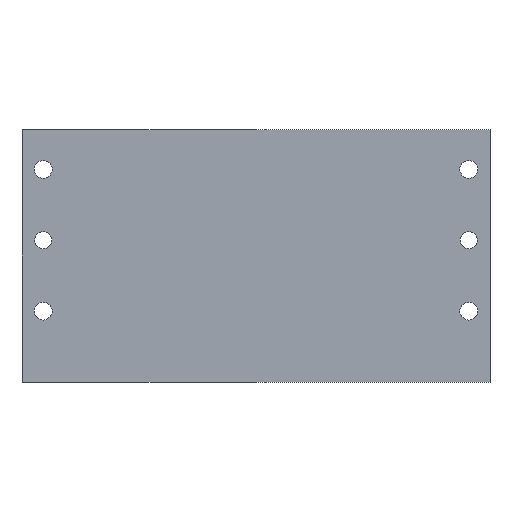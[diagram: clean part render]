
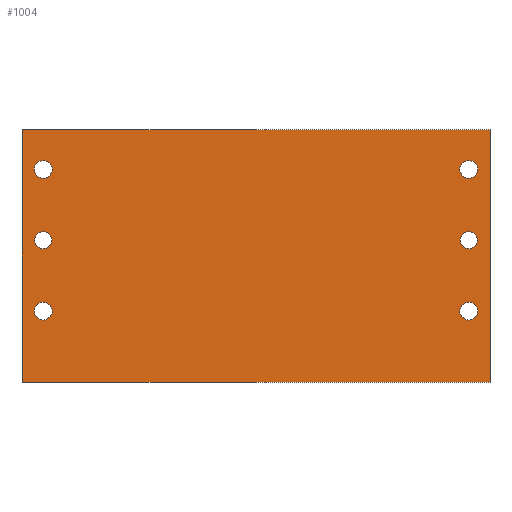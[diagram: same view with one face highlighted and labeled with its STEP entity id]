
A CAD part, front view. The second image highlights one B-rep face of the part: STEP entity #1004.
In plain terms, the highlighted planar face has unit normal (0, -1, 0).
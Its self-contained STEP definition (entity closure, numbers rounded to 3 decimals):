
#39=FACE_BOUND($,#193,.T.);
#40=FACE_BOUND($,#194,.T.);
#41=FACE_BOUND($,#195,.T.);
#42=FACE_BOUND($,#196,.T.);
#43=FACE_BOUND($,#197,.T.);
#44=FACE_BOUND($,#198,.T.);
#45=FACE_BOUND($,#199,.T.);
#78=PLANE($,#1090);
#193=EDGE_LOOP($,(#847));
#194=EDGE_LOOP($,(#848));
#195=EDGE_LOOP($,(#849));
#196=EDGE_LOOP($,(#850));
#197=EDGE_LOOP($,(#851));
#198=EDGE_LOOP($,(#852));
#199=EDGE_LOOP($,(#853,#854,#855,#856));
#274=LINE($,#1538,#364);
#293=LINE($,#1606,#383);
#294=LINE($,#1609,#384);
#296=LINE($,#1612,#386);
#364=VECTOR($,#1263,177.8);
#383=VECTOR($,#1336,330.);
#384=VECTOR($,#1339,330.);
#386=VECTOR($,#1343,177.8);
#413=CIRCLE($,#1064,6.25);
#415=CIRCLE($,#1067,6.25);
#417=CIRCLE($,#1070,6.25);
#419=CIRCLE($,#1073,6.25);
#421=CIRCLE($,#1076,6.);
#423=CIRCLE($,#1079,6.);
#492=VERTEX_POINT($,#1535);
#493=VERTEX_POINT($,#1537);
#496=VERTEX_POINT($,#1546);
#498=VERTEX_POINT($,#1551);
#500=VERTEX_POINT($,#1556);
#502=VERTEX_POINT($,#1561);
#504=VERTEX_POINT($,#1566);
#506=VERTEX_POINT($,#1571);
#515=VERTEX_POINT($,#1604);
#516=VERTEX_POINT($,#1608);
#606=EDGE_CURVE($,#493,#492,#274,.T.);
#610=EDGE_CURVE($,#496,#496,#413,.T.);
#612=EDGE_CURVE($,#498,#498,#415,.T.);
#614=EDGE_CURVE($,#500,#500,#417,.T.);
#616=EDGE_CURVE($,#502,#502,#419,.T.);
#618=EDGE_CURVE($,#504,#504,#421,.T.);
#620=EDGE_CURVE($,#506,#506,#423,.T.);
#637=EDGE_CURVE($,#492,#515,#293,.T.);
#638=EDGE_CURVE($,#516,#493,#294,.T.);
#640=EDGE_CURVE($,#515,#516,#296,.T.);
#847=ORIENTED_EDGE($,*,*,#610,.T.);
#848=ORIENTED_EDGE($,*,*,#612,.T.);
#849=ORIENTED_EDGE($,*,*,#614,.T.);
#850=ORIENTED_EDGE($,*,*,#616,.T.);
#851=ORIENTED_EDGE($,*,*,#618,.T.);
#852=ORIENTED_EDGE($,*,*,#620,.T.);
#853=ORIENTED_EDGE($,*,*,#638,.T.);
#854=ORIENTED_EDGE($,*,*,#606,.T.);
#855=ORIENTED_EDGE($,*,*,#637,.T.);
#856=ORIENTED_EDGE($,*,*,#640,.T.);
#1004=ADVANCED_FACE($,(#39,#40,#41,#42,#43,#44,#45),#78,.T.);
#1064=AXIS2_PLACEMENT_3D($,#1547,#1271,#1272);
#1067=AXIS2_PLACEMENT_3D($,#1552,#1277,#1278);
#1070=AXIS2_PLACEMENT_3D($,#1557,#1283,#1284);
#1073=AXIS2_PLACEMENT_3D($,#1562,#1289,#1290);
#1076=AXIS2_PLACEMENT_3D($,#1567,#1295,#1296);
#1079=AXIS2_PLACEMENT_3D($,#1572,#1301,#1302);
#1090=AXIS2_PLACEMENT_3D($,#1611,#1341,#1342);
#1263=DIRECTION($,(0.,0.,1.));
#1271=DIRECTION('center_axis',(0.,1.,0.));
#1272=DIRECTION('ref_axis',(1.,0.,0.));
#1277=DIRECTION('center_axis',(0.,1.,0.));
#1278=DIRECTION('ref_axis',(1.,0.,0.));
#1283=DIRECTION('center_axis',(0.,1.,0.));
#1284=DIRECTION('ref_axis',(1.,0.,0.));
#1289=DIRECTION('center_axis',(0.,1.,0.));
#1290=DIRECTION('ref_axis',(1.,0.,0.));
#1295=DIRECTION('center_axis',(0.,1.,0.));
#1296=DIRECTION('ref_axis',(1.,0.,0.));
#1301=DIRECTION('center_axis',(0.,1.,0.));
#1302=DIRECTION('ref_axis',(1.,0.,0.));
#1336=DIRECTION($,(-1.,0.,0.));
#1339=DIRECTION($,(1.,0.,0.));
#1341=DIRECTION('center_axis',(0.,-1.,0.));
#1342=DIRECTION('ref_axis',(0.,0.,-1.));
#1343=DIRECTION($,(0.,0.,-1.));
#1535=CARTESIAN_POINT('',(165.,-298.5,171.8));
#1537=CARTESIAN_POINT('',(165.,-298.5,-6.));
#1538=CARTESIAN_POINT($,(165.,-298.5,-6.));
#1546=CARTESIAN_POINT('',(143.75,-298.5,44.));
#1547=CARTESIAN_POINT('Origin',(150.,-298.5,44.));
#1551=CARTESIAN_POINT('',(-156.25,-298.5,144.));
#1552=CARTESIAN_POINT('Origin',(-150.,-298.5,144.));
#1556=CARTESIAN_POINT('',(143.75,-298.5,144.));
#1557=CARTESIAN_POINT('Origin',(150.,-298.5,144.));
#1561=CARTESIAN_POINT('',(-156.25,-298.5,44.));
#1562=CARTESIAN_POINT('Origin',(-150.,-298.5,44.));
#1566=CARTESIAN_POINT('',(144.,-298.5,94.));
#1567=CARTESIAN_POINT('Origin',(150.,-298.5,94.));
#1571=CARTESIAN_POINT('',(-156.,-298.5,94.));
#1572=CARTESIAN_POINT('Origin',(-150.,-298.5,94.));
#1604=CARTESIAN_POINT('',(-165.,-298.5,171.8));
#1606=CARTESIAN_POINT($,(165.,-298.5,171.8));
#1608=CARTESIAN_POINT('',(-165.,-298.5,-6.));
#1609=CARTESIAN_POINT($,(-165.,-298.5,-6.));
#1611=CARTESIAN_POINT('Origin',(0.,-298.5,82.9));
#1612=CARTESIAN_POINT($,(-165.,-298.5,171.8));
